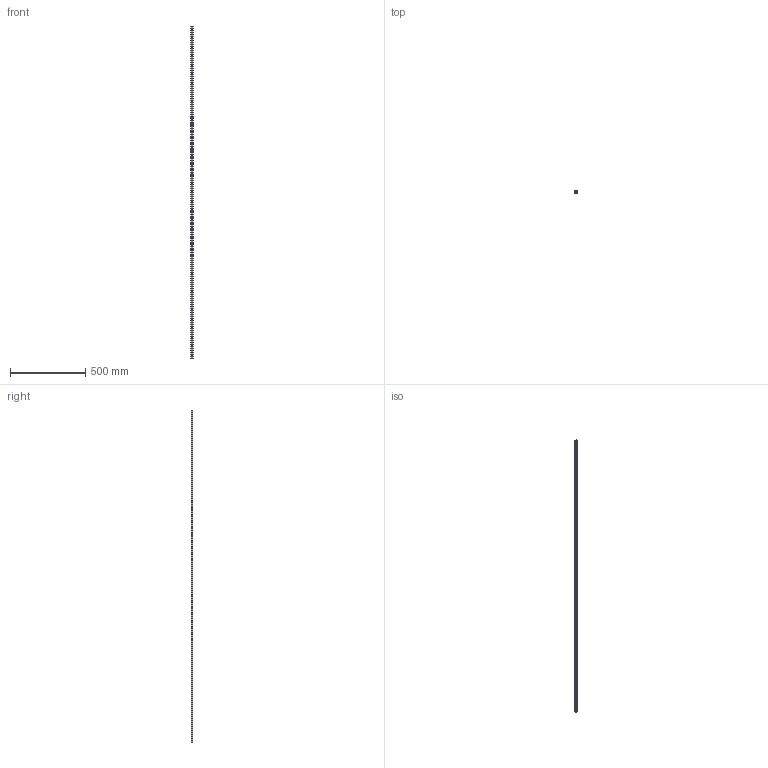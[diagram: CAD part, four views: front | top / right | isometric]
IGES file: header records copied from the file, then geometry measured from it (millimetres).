
Start section: SolidWorks IGES file using analytic representation for surfaces
Global section: file name: C:\Users\IanO\Desktop\L1016_v2\L1016.BL15_v2\L1016.BL15_v2_20190611_IGES\L1016.BL15-2200.igs; native system: SolidWorks 2017; preprocessor: SolidWorks 2017; author: IanO; date: 190612.123125; units: millimetre
Bounding box: 15 x 13 x 2200 mm (x, y, z)
Surface area: 134469.6 mm2 (no closed solid volume)
Topology: 0 solids, 0 shells, 211 faces, 5480 edges, 5480 vertices
Faces by surface type: revolution 152, bspline 59
